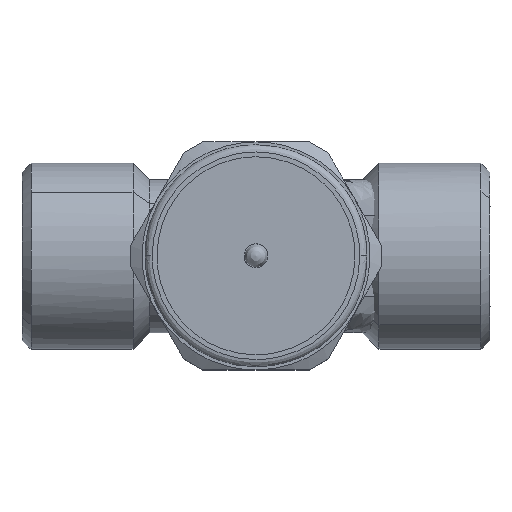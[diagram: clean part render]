
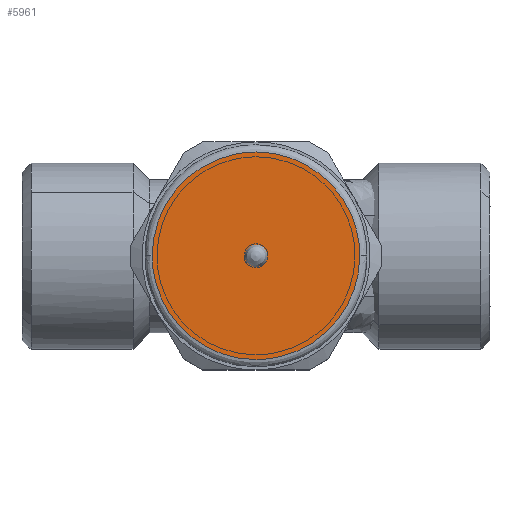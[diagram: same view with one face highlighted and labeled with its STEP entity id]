
A CAD part, top view. The second image highlights one B-rep face of the part: STEP entity #5961.
In plain terms, the highlighted free-form (B-spline) face has degree [1, 1] with [2, 2] control points.
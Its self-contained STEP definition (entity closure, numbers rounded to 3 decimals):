
#1401=CARTESIAN_POINT('',(-0.757,-0.798,16.));
#1402=VERTEX_POINT('',#1401);
#1408=CARTESIAN_POINT('',(0.,-1.1,16.));
#1409=VERTEX_POINT('',#1408);
#1410=CARTESIAN_POINT('',(0.,-1.1,16.));
#1411=CARTESIAN_POINT('',(-0.122,-1.1,16.));
#1412=CARTESIAN_POINT('',(-0.4,-1.053,16.));
#1413=CARTESIAN_POINT('',(-0.644,-0.906,16.));
#1414=CARTESIAN_POINT('',(-0.757,-0.798,16.));
#1415=B_SPLINE_CURVE_WITH_KNOTS('',3,(#1410,#1411,#1412,#1413,#1414),.UNSPECIFIED.,.F.,.U.,(4,1,4),(0.,0.365,0.835),.UNSPECIFIED.);
#1416=EDGE_CURVE('',#1409,#1402,#1415,.T.);
#1418=CARTESIAN_POINT('',(1.1,0.,16.));
#1419=VERTEX_POINT('',#1418);
#1420=CARTESIAN_POINT('',(1.1,0.,16.));
#1421=CARTESIAN_POINT('',(1.1,-0.117,16.));
#1422=CARTESIAN_POINT('',(1.061,-0.36,16.));
#1423=CARTESIAN_POINT('',(0.889,-0.682,16.));
#1424=CARTESIAN_POINT('',(0.642,-0.912,16.));
#1425=CARTESIAN_POINT('',(0.342,-1.062,16.));
#1426=CARTESIAN_POINT('',(0.126,-1.1,16.));
#1427=CARTESIAN_POINT('',(0.,-1.1,16.));
#1428=B_SPLINE_CURVE_WITH_KNOTS('',3,(#1420,#1421,#1422,#1423,#1424,#1425,#1426,#1427),.UNSPECIFIED.,.F.,.U.,(4,1,1,1,1,4),(0.,0.351,0.729,1.08,1.35,1.728),.UNSPECIFIED.);
#1429=EDGE_CURVE('',#1419,#1409,#1428,.T.);
#1431=CARTESIAN_POINT('',(0.757,0.798,16.));
#1432=VERTEX_POINT('',#1431);
#1433=CARTESIAN_POINT('',(0.757,0.798,16.));
#1434=CARTESIAN_POINT('',(0.845,0.715,16.));
#1435=CARTESIAN_POINT('',(1.027,0.474,16.));
#1436=CARTESIAN_POINT('',(1.1,0.177,16.));
#1437=CARTESIAN_POINT('',(1.1,0.,16.));
#1438=B_SPLINE_CURVE_WITH_KNOTS('',3,(#1433,#1434,#1435,#1436,#1437),.UNSPECIFIED.,.F.,.U.,(4,1,4),(0.,0.363,0.893),.UNSPECIFIED.);
#1439=EDGE_CURVE('',#1432,#1419,#1438,.T.);
#1478=CARTESIAN_POINT('',(0.,1.1,16.));
#1479=VERTEX_POINT('',#1478);
#1480=CARTESIAN_POINT('',(0.,1.1,16.));
#1481=CARTESIAN_POINT('',(0.096,1.1,16.));
#1482=CARTESIAN_POINT('',(0.278,1.076,16.));
#1483=CARTESIAN_POINT('',(0.539,0.972,16.));
#1484=CARTESIAN_POINT('',(0.688,0.864,16.));
#1485=CARTESIAN_POINT('',(0.757,0.798,16.));
#1486=B_SPLINE_CURVE_WITH_KNOTS('',3,(#1480,#1481,#1482,#1483,#1484,#1485),.UNSPECIFIED.,.F.,.U.,(4,1,1,4),(0.,0.287,0.548,0.835),.UNSPECIFIED.);
#1487=EDGE_CURVE('',#1479,#1432,#1486,.T.);
#1489=CARTESIAN_POINT('',(-1.1,0.,16.));
#1490=VERTEX_POINT('',#1489);
#1491=CARTESIAN_POINT('',(-1.1,0.,16.));
#1492=CARTESIAN_POINT('',(-1.1,0.099,16.));
#1493=CARTESIAN_POINT('',(-1.071,0.315,16.));
#1494=CARTESIAN_POINT('',(-0.953,0.572,16.));
#1495=CARTESIAN_POINT('',(-0.784,0.783,16.));
#1496=CARTESIAN_POINT('',(-0.566,0.962,16.));
#1497=CARTESIAN_POINT('',(-0.288,1.077,16.));
#1498=CARTESIAN_POINT('',(-0.081,1.1,16.));
#1499=CARTESIAN_POINT('',(0.,1.1,16.));
#1500=B_SPLINE_CURVE_WITH_KNOTS('',3,(#1491,#1492,#1493,#1494,#1495,#1496,#1497,#1498,#1499),.UNSPECIFIED.,.F.,.U.,(4,1,1,1,1,1,4),(0.,0.297,0.648,0.837,1.107,1.485,1.728),.UNSPECIFIED.);
#1501=EDGE_CURVE('',#1490,#1479,#1500,.T.);
#1503=CARTESIAN_POINT('',(-0.757,-0.798,16.));
#1504=CARTESIAN_POINT('',(-0.886,-0.676,16.));
#1505=CARTESIAN_POINT('',(-1.05,-0.418,16.));
#1506=CARTESIAN_POINT('',(-1.1,-0.121,16.));
#1507=CARTESIAN_POINT('',(-1.1,0.,16.));
#1508=B_SPLINE_CURVE_WITH_KNOTS('',3,(#1503,#1504,#1505,#1506,#1507),.UNSPECIFIED.,.F.,.U.,(4,1,4),(0.,0.53,0.893),.UNSPECIFIED.);
#1509=EDGE_CURVE('',#1402,#1490,#1508,.T.);
#2368=CARTESIAN_POINT('',(-17.3,0.,16.));
#2369=VERTEX_POINT('',#2368);
#2381=CARTESIAN_POINT('',(0.,17.3,16.));
#2382=VERTEX_POINT('',#2381);
#2383=CARTESIAN_POINT('',(-17.3,0.,16.));
#2384=CARTESIAN_POINT('',(-17.3,7.166,16.));
#2385=CARTESIAN_POINT('',(-12.233,12.233,16.));
#2386=CARTESIAN_POINT('',(-7.166,17.3,16.));
#2387=CARTESIAN_POINT('',(0.,17.3,16.));
#2395=(BOUNDED_CURVE()B_SPLINE_CURVE(2,(#2383,#2384,#2385,#2386,#2387),.UNSPECIFIED.,.F.,.U.)B_SPLINE_CURVE_WITH_KNOTS((3,2,3),(0.,0.5,1.),.UNSPECIFIED.)CURVE()GEOMETRIC_REPRESENTATION_ITEM()RATIONAL_B_SPLINE_CURVE((1.,0.924,1.,0.924,1.))REPRESENTATION_ITEM(''));
#2396=EDGE_CURVE('',#2369,#2382,#2395,.T.);
#2398=CARTESIAN_POINT('',(17.3,0.,16.));
#2399=VERTEX_POINT('',#2398);
#2400=CARTESIAN_POINT('',(0.,17.3,16.));
#2401=CARTESIAN_POINT('',(1.026,17.3,16.));
#2402=CARTESIAN_POINT('',(2.441,17.174,16.));
#2403=CARTESIAN_POINT('',(4.726,16.683,16.));
#2404=CARTESIAN_POINT('',(7.081,15.889,16.));
#2405=CARTESIAN_POINT('',(9.569,14.509,16.));
#2406=CARTESIAN_POINT('',(11.817,12.722,16.));
#2407=CARTESIAN_POINT('',(13.344,11.087,16.));
#2408=CARTESIAN_POINT('',(14.646,9.275,16.));
#2409=CARTESIAN_POINT('',(15.828,7.173,16.));
#2410=CARTESIAN_POINT('',(16.644,4.935,16.));
#2411=CARTESIAN_POINT('',(17.179,2.406,16.));
#2412=CARTESIAN_POINT('',(17.3,0.955,16.));
#2413=CARTESIAN_POINT('',(17.3,0.,16.));
#2414=B_SPLINE_CURVE_WITH_KNOTS('',3,(#2400,#2401,#2402,#2403,#2404,#2405,#2406,#2407,#2408,#2409,#2410,#2411,#2412,#2413),.UNSPECIFIED.,.F.,.U.,(4,1,1,1,1,1,1,1,1,1,1,4),(0.,3.078,4.246,7.006,10.509,12.738,15.604,17.197,19.426,22.823,24.309,27.175),.UNSPECIFIED.);
#2415=EDGE_CURVE('',#2382,#2399,#2414,.T.);
#2462=CARTESIAN_POINT('',(0.,-17.3,16.));
#2463=VERTEX_POINT('',#2462);
#2464=CARTESIAN_POINT('',(17.3,0.,16.));
#2465=CARTESIAN_POINT('',(17.3,-1.026,16.));
#2466=CARTESIAN_POINT('',(17.111,-3.149,16.));
#2467=CARTESIAN_POINT('',(16.296,-6.058,16.));
#2468=CARTESIAN_POINT('',(15.166,-8.429,16.));
#2469=CARTESIAN_POINT('',(13.871,-10.419,16.));
#2470=CARTESIAN_POINT('',(12.26,-12.31,16.));
#2471=CARTESIAN_POINT('',(9.963,-14.268,16.));
#2472=CARTESIAN_POINT('',(7.368,-15.748,16.));
#2473=CARTESIAN_POINT('',(4.765,-16.688,16.));
#2474=CARTESIAN_POINT('',(2.406,-17.187,16.));
#2475=CARTESIAN_POINT('',(0.814,-17.3,16.));
#2476=CARTESIAN_POINT('',(0.,-17.3,16.));
#2477=B_SPLINE_CURVE_WITH_KNOTS('',3,(#2464,#2465,#2466,#2467,#2468,#2469,#2470,#2471,#2472,#2473,#2474,#2475,#2476),.UNSPECIFIED.,.F.,.U.,(4,1,1,1,1,1,1,1,1,1,4),(0.,3.078,6.369,9.023,10.934,13.481,16.453,19.957,22.398,24.733,27.175),.UNSPECIFIED.);
#2478=EDGE_CURVE('',#2399,#2463,#2477,.T.);
#2480=CARTESIAN_POINT('',(0.,-17.3,16.));
#2481=CARTESIAN_POINT('',(-1.309,-17.3,16.));
#2482=CARTESIAN_POINT('',(-3.255,-17.078,16.));
#2483=CARTESIAN_POINT('',(-5.774,-16.347,16.));
#2484=CARTESIAN_POINT('',(-7.932,-15.446,16.));
#2485=CARTESIAN_POINT('',(-10.122,-14.124,16.));
#2486=CARTESIAN_POINT('',(-12.04,-12.49,16.));
#2487=CARTESIAN_POINT('',(-13.539,-10.836,16.));
#2488=CARTESIAN_POINT('',(-14.954,-8.84,16.));
#2489=CARTESIAN_POINT('',(-16.28,-6.166,16.));
#2490=CARTESIAN_POINT('',(-17.124,-3.078,16.));
#2491=CARTESIAN_POINT('',(-17.3,-0.955,16.));
#2492=CARTESIAN_POINT('',(-17.3,0.,16.));
#2493=B_SPLINE_CURVE_WITH_KNOTS('',3,(#2480,#2481,#2482,#2483,#2484,#2485,#2486,#2487,#2488,#2489,#2490,#2491,#2492),.UNSPECIFIED.,.F.,.U.,(4,1,1,1,1,1,1,1,1,1,4),(0.,3.928,5.838,7.855,10.934,13.481,15.392,17.621,20.806,24.309,27.175),.UNSPECIFIED.);
#2494=EDGE_CURVE('',#2463,#2369,#2493,.T.);
#5942=CARTESIAN_POINT('',(-19.028,-19.028,16.));
#5943=CARTESIAN_POINT('',(19.028,-19.028,16.));
#5944=CARTESIAN_POINT('',(-19.028,19.028,16.));
#5945=CARTESIAN_POINT('',(19.028,19.028,16.));
#5946=B_SPLINE_SURFACE_WITH_KNOTS('',1,1,((#5942,#5944),(#5943,#5945)),.UNSPECIFIED.,.F.,.F.,.U.,(2,2),(2,2),(0.,38.057),(0.,38.057),.UNSPECIFIED.);
#5947=ORIENTED_EDGE('',*,*,#2494,.F.);
#5948=ORIENTED_EDGE('',*,*,#2478,.F.);
#5949=ORIENTED_EDGE('',*,*,#2415,.F.);
#5950=ORIENTED_EDGE('',*,*,#2396,.F.);
#5951=EDGE_LOOP('',(#5947,#5948,#5949,#5950));
#5952=FACE_OUTER_BOUND('',#5951,.T.);
#5953=ORIENTED_EDGE('',*,*,#1501,.T.);
#5954=ORIENTED_EDGE('',*,*,#1487,.T.);
#5955=ORIENTED_EDGE('',*,*,#1439,.T.);
#5956=ORIENTED_EDGE('',*,*,#1429,.T.);
#5957=ORIENTED_EDGE('',*,*,#1416,.T.);
#5958=ORIENTED_EDGE('',*,*,#1509,.T.);
#5959=EDGE_LOOP('',(#5953,#5954,#5955,#5956,#5957,#5958));
#5960=FACE_BOUND('',#5959,.T.);
#5961=ADVANCED_FACE('',(#5952,#5960),#5946,.T.);
